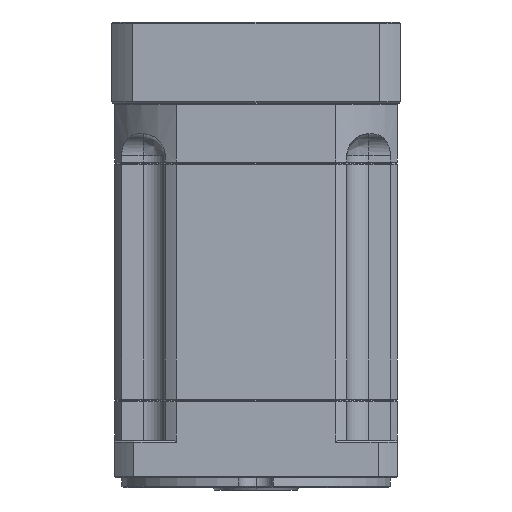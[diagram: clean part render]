
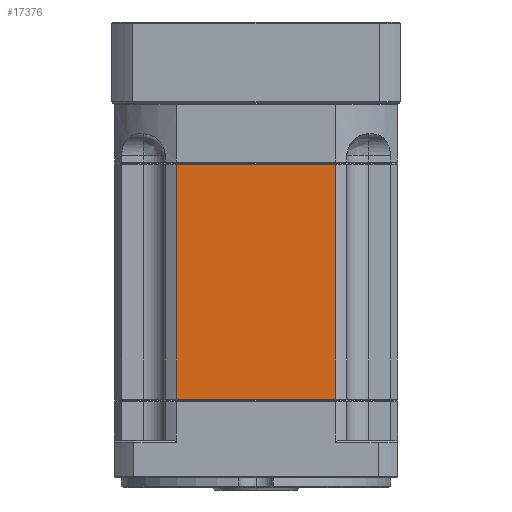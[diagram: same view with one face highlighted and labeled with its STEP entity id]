
A CAD part, left-side view. The second image highlights one B-rep face of the part: STEP entity #17376.
In plain terms, the highlighted planar face has unit normal (-1, 0, 0).
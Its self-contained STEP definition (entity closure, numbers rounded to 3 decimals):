
#1906 = CARTESIAN_POINT ( 'NONE',  ( -8.091, 89.452, -62.914 ) ) ;
#9834 = DIRECTION ( 'NONE',  ( 0., -1., 0. ) ) ;
#11220 = CARTESIAN_POINT ( 'NONE',  ( -8.091, 24.652, -347.957 ) ) ;
#16382 = ORIENTED_EDGE ( 'NONE', *, *, #67648, .F. ) ;
#17376 = ADVANCED_FACE ( 'NONE', ( #89865 ), #48403, .F. ) ;
#23032 = LINE ( 'NONE', #11220, #101565 ) ;
#27954 = LINE ( 'NONE', #104667, #112934 ) ;
#28358 = DIRECTION ( 'NONE',  ( 1., 0., 0. ) ) ;
#29424 = VERTEX_POINT ( 'NONE', #87803 ) ;
#32525 = CARTESIAN_POINT ( 'NONE',  ( -8.091, 24.652, -158.914 ) ) ;
#34395 = LINE ( 'NONE', #92731, #58331 ) ;
#37157 = EDGE_LOOP ( 'NONE', ( #81231, #60454, #130874, #16382 ) ) ;
#39259 = CARTESIAN_POINT ( 'NONE',  ( -8.091, 89.452, -158.914 ) ) ;
#40960 = VERTEX_POINT ( 'NONE', #115320 ) ;
#45218 = LINE ( 'NONE', #1906, #103066 ) ;
#45411 = EDGE_CURVE ( 'NONE', #40960, #29424, #34395, .T. ) ;
#48403 = PLANE ( 'NONE',  #83140 ) ;
#58331 = VECTOR ( 'NONE', #9834, 1000. ) ;
#60454 = ORIENTED_EDGE ( 'NONE', *, *, #77660, .F. ) ;
#66012 = DIRECTION ( 'NONE',  ( 0., 1., 0. ) ) ;
#67648 = EDGE_CURVE ( 'NONE', #71407, #40960, #45218, .T. ) ;
#70772 = DIRECTION ( 'NONE',  ( 0., 0., -1. ) ) ;
#71407 = VERTEX_POINT ( 'NONE', #39259 ) ;
#73557 = DIRECTION ( 'NONE',  ( 0., 0., 1. ) ) ;
#77660 = EDGE_CURVE ( 'NONE', #29424, #98307, #23032, .T. ) ;
#81231 = ORIENTED_EDGE ( 'NONE', *, *, #125882, .F. ) ;
#83140 = AXIS2_PLACEMENT_3D ( 'NONE', #89694, #28358, #100046 ) ;
#87803 = CARTESIAN_POINT ( 'NONE',  ( -8.091, 24.652, -63.414 ) ) ;
#89694 = CARTESIAN_POINT ( 'NONE',  ( -8.091, -0.448, -62.914 ) ) ;
#89865 = FACE_OUTER_BOUND ( 'NONE', #37157, .T. ) ;
#92731 = CARTESIAN_POINT ( 'NONE',  ( -8.091, 57.052, -63.414 ) ) ;
#98307 = VERTEX_POINT ( 'NONE', #32525 ) ;
#100046 = DIRECTION ( 'NONE',  ( 0., 1., 0. ) ) ;
#101565 = VECTOR ( 'NONE', #70772, 1000. ) ;
#103066 = VECTOR ( 'NONE', #73557, 1000. ) ;
#104667 = CARTESIAN_POINT ( 'NONE',  ( -8.091, -0.448, -158.914 ) ) ;
#112934 = VECTOR ( 'NONE', #66012, 1000. ) ;
#115320 = CARTESIAN_POINT ( 'NONE',  ( -8.091, 89.452, -63.414 ) ) ;
#125882 = EDGE_CURVE ( 'NONE', #98307, #71407, #27954, .T. ) ;
#130874 = ORIENTED_EDGE ( 'NONE', *, *, #45411, .F. ) ;
